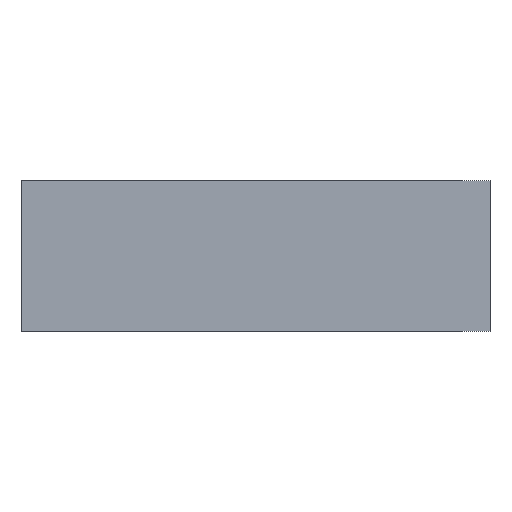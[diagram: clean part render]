
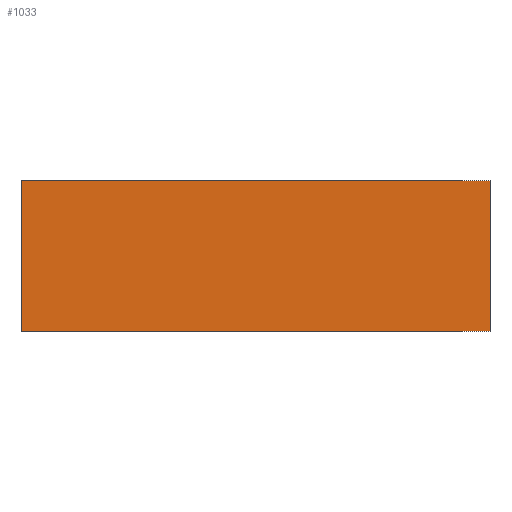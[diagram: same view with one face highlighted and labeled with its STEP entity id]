
A CAD part, front view. The second image highlights one B-rep face of the part: STEP entity #1033.
In plain terms, the highlighted planar face has unit normal (0, -1, 0).
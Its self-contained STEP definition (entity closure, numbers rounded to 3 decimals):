
#126 = ORIENTED_EDGE ( 'NONE', *, *, #450, .T. ) ;
#127 = ORIENTED_EDGE ( 'NONE', *, *, #432, .F. ) ;
#128 = ORIENTED_EDGE ( 'NONE', *, *, #449, .F. ) ;
#129 = ORIENTED_EDGE ( 'NONE', *, *, #443, .T. ) ;
#153 = EDGE_LOOP ( 'NONE', ( #129, #128, #127, #126 ) ) ;
#228 = VERTEX_POINT ( 'NONE', #530 ) ;
#230 = VERTEX_POINT ( 'NONE', #522 ) ;
#277 = DIRECTION ( 'NONE',  ( -1., 0., 0. ) ) ;
#278 = DIRECTION ( 'NONE',  ( 0., 1., 0. ) ) ;
#286 = CARTESIAN_POINT ( 'NONE',  ( -101., 0., 65. ) ) ;
#289 = PLANE ( 'NONE',  #956 ) ;
#386 = CARTESIAN_POINT ( 'NONE',  ( 101., 0., 0. ) ) ;
#432 = EDGE_CURVE ( 'NONE', #228, #230, #740, .T. ) ;
#443 = EDGE_CURVE ( 'NONE', #662, #676, #717, .T. ) ;
#449 = EDGE_CURVE ( 'NONE', #230, #676, #706, .T. ) ;
#450 = EDGE_CURVE ( 'NONE', #228, #662, #704, .T. ) ;
#492 = CARTESIAN_POINT ( 'NONE',  ( -101., 0., 0. ) ) ;
#522 = CARTESIAN_POINT ( 'NONE',  ( 101., 0., 65. ) ) ;
#530 = CARTESIAN_POINT ( 'NONE',  ( -101., 0., 65. ) ) ;
#555 = DIRECTION ( 'NONE',  ( 0., 0., -1. ) ) ;
#556 = CARTESIAN_POINT ( 'NONE',  ( -101., 0., 65. ) ) ;
#558 = DIRECTION ( 'NONE',  ( 0., 0., -1. ) ) ;
#559 = CARTESIAN_POINT ( 'NONE',  ( 101., 0., 65. ) ) ;
#573 = DIRECTION ( 'NONE',  ( 1., 0., 0. ) ) ;
#575 = CARTESIAN_POINT ( 'NONE',  ( -101., 0., 0. ) ) ;
#601 = DIRECTION ( 'NONE',  ( 1., 0., 0. ) ) ;
#602 = CARTESIAN_POINT ( 'NONE',  ( -101., 0., 65. ) ) ;
#662 = VERTEX_POINT ( 'NONE', #492 ) ;
#676 = VERTEX_POINT ( 'NONE', #386 ) ;
#692 = FACE_OUTER_BOUND ( 'NONE', #153, .T. ) ;
#703 = VECTOR ( 'NONE', #555, 1000. ) ;
#704 = LINE ( 'NONE', #556, #703 ) ;
#705 = VECTOR ( 'NONE', #558, 1000. ) ;
#706 = LINE ( 'NONE', #559, #705 ) ;
#716 = VECTOR ( 'NONE', #573, 1000. ) ;
#717 = LINE ( 'NONE', #575, #716 ) ;
#739 = VECTOR ( 'NONE', #601, 1000. ) ;
#740 = LINE ( 'NONE', #602, #739 ) ;
#956 = AXIS2_PLACEMENT_3D ( 'NONE', #286, #278, #277 ) ;
#1033 = ADVANCED_FACE ( 'NONE', ( #692 ), #289, .F. ) ;
